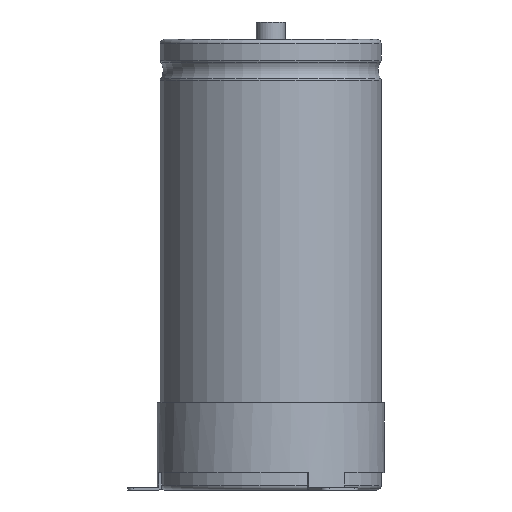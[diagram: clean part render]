
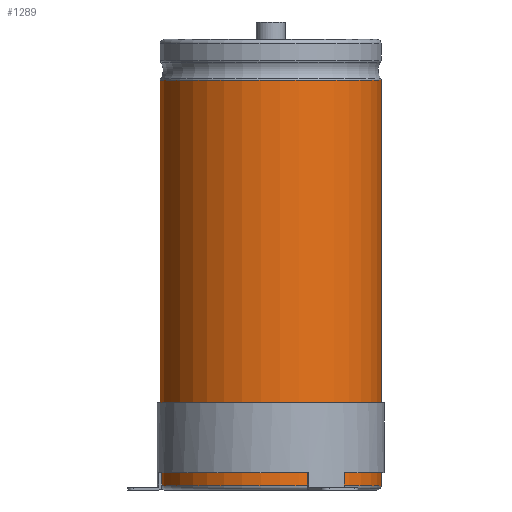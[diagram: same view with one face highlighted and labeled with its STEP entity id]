
A CAD part, front view. The second image highlights one B-rep face of the part: STEP entity #1289.
In plain terms, the highlighted cylindrical face has radius 38.1 mm (diameter 76.2 mm), a partial arc.
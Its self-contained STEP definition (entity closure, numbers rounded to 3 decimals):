
#233=LINE('',#6601,#447);
#234=LINE('',#6605,#448);
#447=VECTOR('',#5224,1.);
#448=VECTOR('',#5227,1.);
#695=FACE_OUTER_BOUND('',#1741,.T.);
#1289=ADVANCED_FACE('',(#695),#1519,.T.);
#1519=CYLINDRICAL_SURFACE('',#4585,38.1);
#1741=EDGE_LOOP('',(#2147,#2148,#2149,#2150));
#2147=ORIENTED_EDGE('',*,*,#3702,.T.);
#2148=ORIENTED_EDGE('',*,*,#3703,.T.);
#2149=ORIENTED_EDGE('',*,*,#3704,.F.);
#2150=ORIENTED_EDGE('',*,*,#3705,.F.);
#3274=VERTEX_POINT('',#6594);
#3276=VERTEX_POINT('',#6598);
#3277=VERTEX_POINT('',#6602);
#3278=VERTEX_POINT('',#6604);
#3702=EDGE_CURVE('',#3274,#3276,#4267,.T.);
#3703=EDGE_CURVE('',#3276,#3277,#233,.T.);
#3704=EDGE_CURVE('',#3278,#3277,#4268,.T.);
#3705=EDGE_CURVE('',#3274,#3278,#234,.T.);
#4267=CIRCLE('',#4582,38.1);
#4268=CIRCLE('',#4584,38.1);
#4582=AXIS2_PLACEMENT_3D('',#6599,#5220,#5221);
#4584=AXIS2_PLACEMENT_3D('',#6603,#5225,#5226);
#4585=AXIS2_PLACEMENT_3D('',#6606,#5228,#5229);
#5220=DIRECTION('',(0.,0.,-1.));
#5221=DIRECTION('',(0.,1.,0.));
#5224=DIRECTION('',(0.,0.,-1.));
#5225=DIRECTION('',(0.,0.,-1.));
#5226=DIRECTION('',(0.,1.,0.));
#5227=DIRECTION('',(0.,0.,-1.));
#5228=DIRECTION('',(0.,0.,-1.));
#5229=DIRECTION('',(0.,1.,0.));
#6594=CARTESIAN_POINT('',(3.983,37.891,140.9));
#6598=CARTESIAN_POINT('',(-3.983,37.891,140.9));
#6599=CARTESIAN_POINT('',(0.,0.,140.9));
#6601=CARTESIAN_POINT('',(-3.983,37.891,140.9));
#6602=CARTESIAN_POINT('',(-3.983,37.891,1.5));
#6603=CARTESIAN_POINT('',(0.,0.,1.5));
#6604=CARTESIAN_POINT('',(3.983,37.891,1.5));
#6605=CARTESIAN_POINT('',(3.983,37.891,140.9));
#6606=CARTESIAN_POINT('',(0.,0.,0.));
